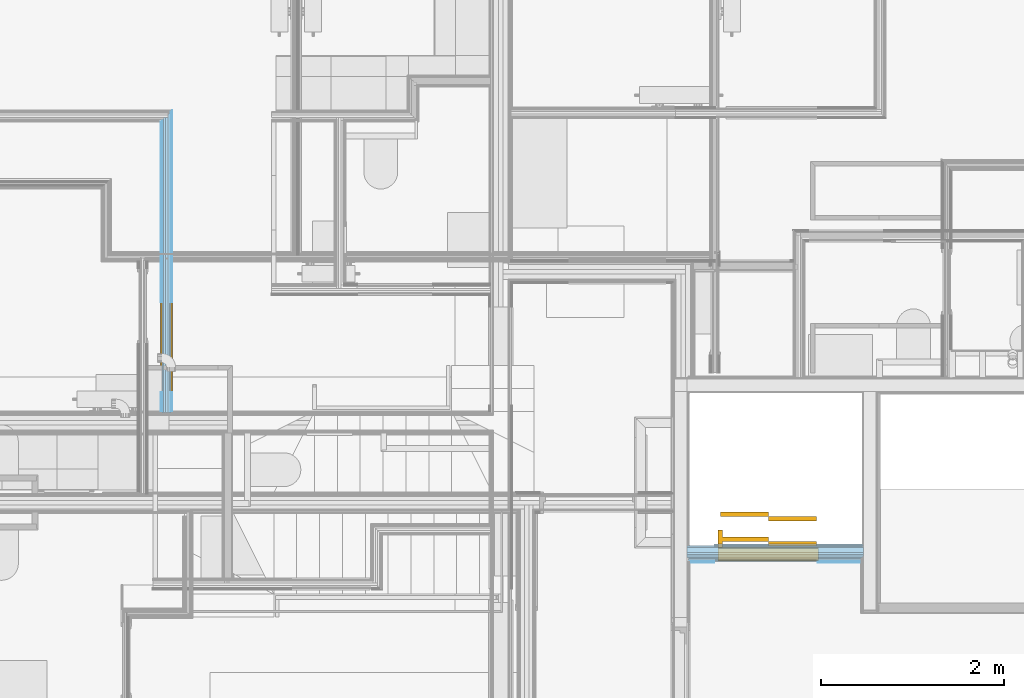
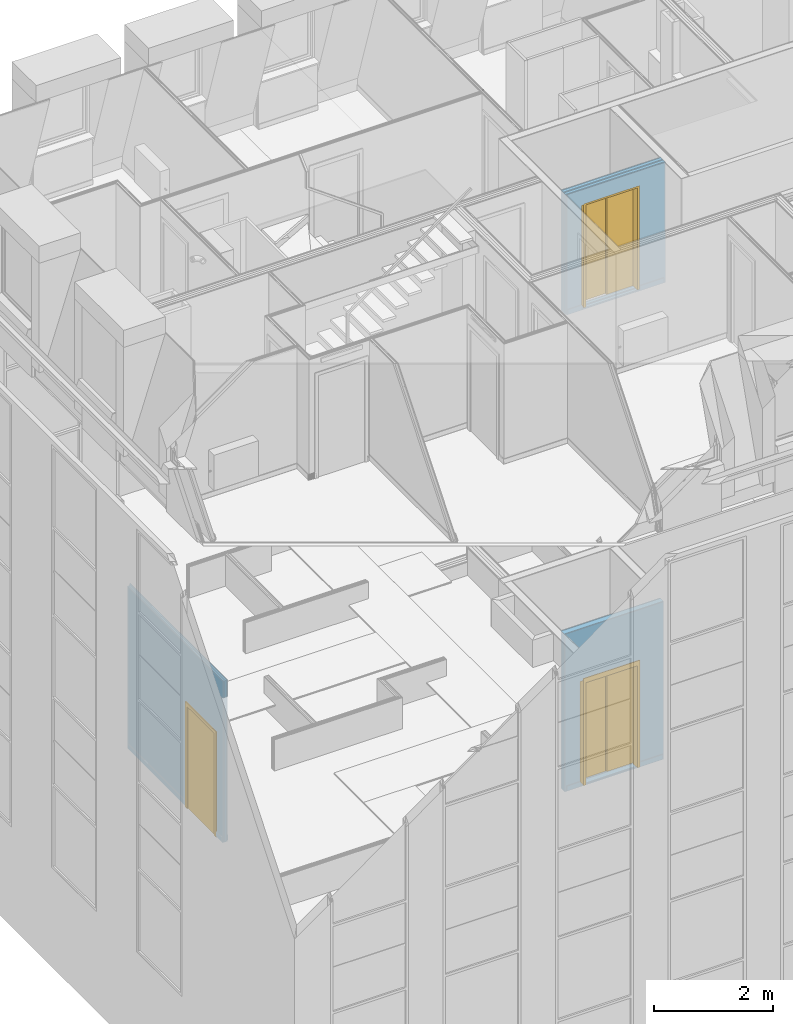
# One storey, part 86 of 169: 3 doors, 3 openings, 3 elements without a shape of their own, plus 19 elements that do not belong to this part.
"""IFC2X3 building model written with IfcOpenShell, lengths in metres."""

from ifc_helpers import new_model, entity, si_unit, converted_unit, derived_unit, money_unit, direction, frame, frame_2d, origin_with_axes, place, context, subcontext, project, spatial, polyline, rectangle, outline, extrude, faceted_brep, material, type_object, element, fill, aggregate, save


model = new_model("IFC2X3")

# Units and contexts
model_context = context("Model", 3, precision=1e-05, world=origin_with_axes(), true_north=direction((0.0, 1.0)))
body_context = subcontext(model_context, "Body", "Model", "MODEL_VIEW", scale=1.0)
ifc_project = project(units=[si_unit("LENGTHUNIT", "METRE"), si_unit("AREAUNIT", "SQUARE_METRE"), si_unit("VOLUMEUNIT", "CUBIC_METRE"), si_unit("ABSORBEDDOSEUNIT", "GRAY"), si_unit("AMOUNTOFSUBSTANCEUNIT", "MOLE"), si_unit("DOSEEQUIVALENTUNIT", "SIEVERT"), si_unit("ELECTRICCAPACITANCEUNIT", "FARAD"), si_unit("ELECTRICCHARGEUNIT", "COULOMB"), si_unit("ELECTRICCONDUCTANCEUNIT", "SIEMENS"), si_unit("ELECTRICCURRENTUNIT", "AMPERE"), si_unit("ELECTRICRESISTANCEUNIT", "OHM"), si_unit("ELECTRICVOLTAGEUNIT", "VOLT"), si_unit("ENERGYUNIT", "JOULE"), si_unit("FORCEUNIT", "NEWTON"), si_unit("FREQUENCYUNIT", "HERTZ"), si_unit("ILLUMINANCEUNIT", "LUX"), si_unit("INDUCTANCEUNIT", "HENRY"), si_unit("LUMINOUSFLUXUNIT", "LUMEN"), si_unit("LUMINOUSINTENSITYUNIT", "CANDELA"), si_unit("MAGNETICFLUXDENSITYUNIT", "TESLA"), si_unit("MAGNETICFLUXUNIT", "WEBER"), si_unit("MASSUNIT", "GRAM"), converted_unit("PLANEANGLEUNIT", "degree", entity("IfcReal", 0.0174532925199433), si_unit("PLANEANGLEUNIT", "RADIAN"), dimensions=[0, 0, 0, 0, 0, 0, 0]), si_unit("POWERUNIT", "WATT"), si_unit("PRESSUREUNIT", "PASCAL"), si_unit("RADIOACTIVITYUNIT", "BECQUEREL"), si_unit("SOLIDANGLEUNIT", "STERADIAN"), si_unit("THERMODYNAMICTEMPERATUREUNIT", "KELVIN"), si_unit("TIMEUNIT", "SECOND"), derived_unit("ACCELERATIONUNIT", [(si_unit("LENGTHUNIT", "METRE"), 1), (si_unit("TIMEUNIT", "SECOND"), -2)]), derived_unit("ANGULARVELOCITYUNIT", [(converted_unit("PLANEANGLEUNIT", "degree", entity("IfcReal", 0.0174532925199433), si_unit("PLANEANGLEUNIT", "RADIAN"), dimensions=[0, 0, 0, 0, 0, 0, 0]), 1), (si_unit("TIMEUNIT", "SECOND"), -1)]), derived_unit("CURVATUREUNIT", [(converted_unit("PLANEANGLEUNIT", "degree", entity("IfcReal", 0.0174532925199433), si_unit("PLANEANGLEUNIT", "RADIAN"), dimensions=[0, 0, 0, 0, 0, 0, 0]), 1), (si_unit("LENGTHUNIT", "METRE"), -1)]), derived_unit("DYNAMICVISCOSITYUNIT", [(si_unit("PRESSUREUNIT", "PASCAL"), 1), (si_unit("TIMEUNIT", "SECOND"), 1)]), derived_unit("HEATFLUXDENSITYUNIT", [(si_unit("POWERUNIT", "WATT"), 1), (si_unit("LENGTHUNIT", "METRE"), -2)]), derived_unit("HEATINGVALUEUNIT", [(si_unit("ENERGYUNIT", "JOULE"), 1), (si_unit("MASSUNIT", "GRAM"), -1)]), derived_unit("INTEGERCOUNTRATEUNIT", [(si_unit("TIMEUNIT", "SECOND"), -1)]), derived_unit("IONCONCENTRATIONUNIT", [(si_unit("MASSUNIT", "GRAM"), 1), (si_unit("VOLUMEUNIT", "CUBIC_METRE"), -1)]), derived_unit("ISOTHERMALMOISTURECAPACITYUNIT", [(si_unit("VOLUMEUNIT", "CUBIC_METRE"), 1), (si_unit("MASSUNIT", "GRAM"), -1)]), derived_unit("KINEMATICVISCOSITYUNIT", [(si_unit("AREAUNIT", "SQUARE_METRE"), 1), (si_unit("TIMEUNIT", "SECOND"), -1)]), derived_unit("LINEARFORCEUNIT", [(si_unit("FORCEUNIT", "NEWTON"), 1), (si_unit("LENGTHUNIT", "METRE"), -1)]), derived_unit("LINEARMOMENTUNIT", [(si_unit("FORCEUNIT", "NEWTON"), 1), (si_unit("LENGTHUNIT", "METRE"), -1)]), derived_unit("LINEARSTIFFNESSUNIT", [(si_unit("FORCEUNIT", "NEWTON"), 1), (si_unit("LENGTHUNIT", "METRE"), -1)]), derived_unit("LINEARVELOCITYUNIT", [(si_unit("LENGTHUNIT", "METRE"), 1), (si_unit("TIMEUNIT", "SECOND"), -1)]), derived_unit("LUMINOUSINTENSITYDISTRIBUTIONUNIT", [(si_unit("LUMINOUSINTENSITYUNIT", "CANDELA"), 1), (si_unit("LUMINOUSFLUXUNIT", "LUMEN"), -1)]), derived_unit("MASSDENSITYUNIT", [(si_unit("MASSUNIT", "GRAM"), 1), (si_unit("VOLUMEUNIT", "CUBIC_METRE"), -1)]), derived_unit("MASSFLOWRATEUNIT", [(si_unit("MASSUNIT", "GRAM"), 1), (si_unit("TIMEUNIT", "SECOND"), -1)]), derived_unit("MASSPERLENGTHUNIT", [(si_unit("MASSUNIT", "GRAM"), 1), (si_unit("LENGTHUNIT", "METRE"), -1)]), derived_unit("MODULUSOFELASTICITYUNIT", [(si_unit("FORCEUNIT", "NEWTON"), 1), (si_unit("AREAUNIT", "SQUARE_METRE"), -1)]), derived_unit("MODULUSOFLINEARSUBGRADEREACTIONUNIT", [(si_unit("FORCEUNIT", "NEWTON"), 1), (si_unit("LENGTHUNIT", "METRE"), -2)]), derived_unit("MODULUSOFROTATIONALSUBGRADEREACTIONUNIT", [(si_unit("FORCEUNIT", "NEWTON"), 1), (si_unit("LENGTHUNIT", "METRE"), 1)]), derived_unit("MODULUSOFSUBGRADEREACTIONUNIT", [(si_unit("FORCEUNIT", "NEWTON"), 1), (si_unit("VOLUMEUNIT", "CUBIC_METRE"), -1)]), derived_unit("MOISTUREDIFFUSIVITYUNIT", [(si_unit("VOLUMEUNIT", "CUBIC_METRE"), 1), (si_unit("TIMEUNIT", "SECOND"), -1)]), derived_unit("MOLECULARWEIGHTUNIT", [(si_unit("MASSUNIT", "GRAM"), 1), (si_unit("AMOUNTOFSUBSTANCEUNIT", "MOLE"), -1)]), derived_unit("PLANARFORCEUNIT", [(si_unit("FORCEUNIT", "NEWTON"), 1), (si_unit("LENGTHUNIT", "METRE"), -2)]), derived_unit("ROTATIONALFREQUENCYUNIT", [(si_unit("TIMEUNIT", "SECOND"), -1)]), derived_unit("ROTATIONALMASSUNIT", [(si_unit("MASSUNIT", "GRAM"), 1), (si_unit("LENGTHUNIT", "METRE"), 2)]), derived_unit("ROTATIONALSTIFFNESSUNIT", [(si_unit("FORCEUNIT", "NEWTON"), 1), (si_unit("LENGTHUNIT", "METRE"), 1), (converted_unit("PLANEANGLEUNIT", "degree", entity("IfcReal", 0.0174532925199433), si_unit("PLANEANGLEUNIT", "RADIAN"), dimensions=[0, 0, 0, 0, 0, 0, 0]), -1)]), derived_unit("SECTIONAREAINTEGRALUNIT", [(si_unit("LENGTHUNIT", "METRE"), 5)]), derived_unit("SECTIONMODULUSUNIT", [(si_unit("LENGTHUNIT", "METRE"), 3)]), derived_unit("SHEARMODULUSUNIT", [(si_unit("FORCEUNIT", "NEWTON"), 1), (si_unit("AREAUNIT", "SQUARE_METRE"), -1)]), derived_unit("SOUNDPOWERUNIT", [(si_unit("ENERGYUNIT", "JOULE"), 1), (si_unit("TIMEUNIT", "SECOND"), -1)]), derived_unit("SPECIFICHEATCAPACITYUNIT", [(si_unit("FORCEUNIT", "NEWTON"), 1), (si_unit("MASSUNIT", "GRAM"), -1), (si_unit("THERMODYNAMICTEMPERATUREUNIT", "KELVIN"), -1)]), derived_unit("TEMPERATUREGRADIENTUNIT", [(si_unit("THERMODYNAMICTEMPERATUREUNIT", "KELVIN"), 1), (si_unit("LENGTHUNIT", "METRE"), -1)]), derived_unit("THERMALADMITTANCEUNIT", [(si_unit("POWERUNIT", "WATT"), 1), (si_unit("AREAUNIT", "SQUARE_METRE"), -1), (si_unit("THERMODYNAMICTEMPERATUREUNIT", "KELVIN"), -1)]), derived_unit("THERMALCONDUCTANCEUNIT", [(si_unit("POWERUNIT", "WATT"), 1), (si_unit("LENGTHUNIT", "METRE"), -1), (si_unit("THERMODYNAMICTEMPERATUREUNIT", "KELVIN"), -1)]), derived_unit("THERMALEXPANSIONCOEFFICIENTUNIT", [(si_unit("THERMODYNAMICTEMPERATUREUNIT", "KELVIN"), -1)]), derived_unit("THERMALRESISTANCEUNIT", [(si_unit("AREAUNIT", "SQUARE_METRE"), 1), (si_unit("POWERUNIT", "WATT"), -1)]), derived_unit("THERMALTRANSMITTANCEUNIT", [(si_unit("POWERUNIT", "WATT"), 1), (si_unit("AREAUNIT", "SQUARE_METRE"), -1), (si_unit("THERMODYNAMICTEMPERATUREUNIT", "KELVIN"), -1)]), derived_unit("TORQUEUNIT", [(si_unit("FORCEUNIT", "NEWTON"), 1), (si_unit("LENGTHUNIT", "METRE"), 1)]), derived_unit("VAPORPERMEABILITYUNIT", [(si_unit("MASSUNIT", "GRAM"), 1), (si_unit("TIMEUNIT", "SECOND"), -1)]), derived_unit("VOLUMETRICFLOWRATEUNIT", [(si_unit("VOLUMEUNIT", "CUBIC_METRE"), 1), (si_unit("TIMEUNIT", "SECOND"), -1)]), derived_unit("WARPINGCONSTANTUNIT", [(si_unit("LENGTHUNIT", "METRE"), 6)]), derived_unit("WARPINGMOMENTUNIT", [(si_unit("FORCEUNIT", "NEWTON"), 1), (si_unit("LENGTHUNIT", "METRE"), 2)]), money_unit("GBP")], contexts=[model_context])

# Site, building, storey, space
site_placement = place(None, origin_with_axes())
site = spatial("IfcSite", under=ifc_project, at=site_placement, Name="Site", CompositionType="ELEMENT")
building_placement = place(site_placement, origin_with_axes())
building = spatial("IfcBuilding", under=site, at=building_placement, Name="Building01", CompositionType="ELEMENT")
storey_placement = place(building_placement, frame((0.0, 0.0, 5.15), z_axis=(0.0, 0.0, 1.0), x_axis=(1.0, 0.0, 0.0)))
storey = spatial("IfcBuildingStorey", under=building, at=storey_placement, Name="1F", CompositionType="ELEMENT", Elevation=5.15)
space_1_placement = place(storey_placement, frame((7.064669, 14.582, 0.017975), z_axis=(0.0, 0.0, 1.0), x_axis=(-1.0, 0.0, 0.0)))
space_1 = spatial("IfcSpace", under=storey, at=space_1_placement, Name="07", CompositionType="ELEMENT", InteriorOrExteriorSpace="NOTDEFINED")

# Door
ifc_material_1 = material(Name="A_BSUK_Doors")
door_style_1 = type_object("IfcDoorStyle", Name="A-Doors-SingleFlush", ConstructionType="USERDEFINED", OperationType="SINGLE_SWING_LEFT", ParameterTakesPrecedence=False, Sizeable=False)
wall_2_placement = place(storey_placement, frame((3.534669, 8.43567, 0.0), z_axis=(0.0, 0.0, 1.0), x_axis=(0.0, 1.0, 0.0)))
opening_2_placement = place(wall_2_placement, frame((0.223034, -0.05, 0.0), z_axis=(0.0, 0.0, 1.0), x_axis=(1.0, 0.0, 0.0)))
door_1_placement = place(opening_2_placement, frame((0.042, 0.11, 0.0), z_axis=(0.0, 0.0, 1.0), x_axis=(1.0, 0.0, 0.0)))
door_1 = element("IfcDoor", 1, at=door_1_placement, inside=space_1, type_object=door_style_1, material=ifc_material_1, Name="1.21", ObjectType="A-Doors-SingleFlush", OverallHeight=2.142, OverallWidth=0.984, context=body_context, shape_type="Brep", body=[
    faceted_brep([(0.0, -0.114, 2.1), (0.9, -0.114, 2.1), (0.9, -0.114, 0.0), (0.969, -0.114, 0.0), (0.969, -0.114, 2.169), (-0.069, -0.114, 2.169), (-0.069, -0.114, 0.0), (0.0, -0.114, 0.0), (0.969, -0.095, 2.169), (0.969, -0.095, 0.0), (-0.069, -0.095, 0.0), (-0.069, -0.095, 2.169), (-0.042, -0.095, 0.0), (-0.042, 0.0, 0.0), (-0.069, 0.0, 0.0), (-0.069, 0.019, 0.0), (0.0, 0.019, 0.0), (0.0, 0.019, 2.1), (0.9, 0.019, 2.1), (-0.069, 0.019, 2.169), (0.969, 0.019, 2.169), (0.969, 0.019, 0.0), (0.9, 0.019, 0.0), (-0.069, 0.0, 2.169), (-0.042, 0.0, 2.142), (-0.042, -0.095, 2.142), (0.942, 0.0, 2.142), (0.942, -0.095, 2.142), (0.942, -0.095, 0.0), (0.942, 0.0, 0.0), (0.969, 0.0, 0.0), (0.969, 0.0, 2.169)], [[[0, 1, 2, 3, 4, 5, 6, 7]], [[8, 4, 3, 9]], [[10, 6, 5, 11]], [[11, 5, 4, 8]], [[7, 6, 10, 12, 13, 14, 15, 16]], [[7, 16, 17, 0]], [[0, 17, 18, 1]], [[17, 16, 15, 19, 20, 21, 22, 18]], [[1, 18, 22, 2]], [[14, 23, 19, 15]], [[24, 13, 12, 25]], [[26, 24, 25, 27]], [[11, 8, 9, 28, 27, 25, 12, 10]], [[27, 28, 29, 26]], [[26, 29, 30, 31, 23, 14, 13, 24]], [[22, 21, 30, 29, 28, 9, 3, 2]], [[30, 21, 20, 31]], [[31, 20, 19, 23]]]),
    faceted_brep([(0.9, -0.09, 0.0), (0.9, -0.04, 0.0), (0.9, -0.04, 2.1), (0.9, -0.09, 2.1), (0.025, -0.09, 2.075), (0.875, -0.09, 2.075), (0.875, -0.09, 0.0), (0.0, -0.09, 2.1), (0.0, -0.09, 0.0), (0.025, -0.09, 0.0), (0.0, -0.04, 0.0), (0.025, -0.04, 0.0), (0.0, -0.04, 2.1), (0.025, -0.04, 2.075), (0.875, -0.04, 0.0), (0.875, -0.04, 2.075)], [[[0, 1, 2, 3]], [[4, 5, 6, 0, 3, 7, 8, 9]], [[9, 8, 10, 11]], [[3, 2, 12, 7]], [[7, 12, 10, 8]], [[13, 11, 10, 12, 2, 1, 14, 15]], [[5, 15, 14, 6]], [[14, 1, 0, 6]], [[9, 11, 13, 4]], [[4, 13, 15, 5]]]),
    faceted_brep([(0.0, -0.04, 2.1), (0.0, 0.0, 2.1), (0.0, 0.0, 0.0), (0.0, -0.04, 0.0), (0.9, -0.04, 0.0), (0.9, 0.0, 0.0), (0.9, 0.0, 2.1), (0.9, -0.04, 2.1)], [[[0, 1, 2, 3]], [[4, 5, 6, 7]], [[3, 2, 5, 4]], [[3, 4, 7, 0]], [[7, 6, 1, 0]], [[1, 6, 5, 2]]]),
])

# Space
space_2_placement = place(storey_placement, frame((9.548928, 7.163933, 0.017932), z_axis=(0.0, 0.0, 1.0), x_axis=(1.0, 0.0, 0.0)))
space_2 = spatial("IfcSpace", under=storey, at=space_2_placement, Name="firef. LIFT", CompositionType="ELEMENT", InteriorOrExteriorSpace="NOTDEFINED")

# Door
door_style_2 = type_object("IfcDoorStyle", Name="A-ElevatorDoor-2Speed", ConstructionType="USERDEFINED", OperationType="USERDEFINED", ParameterTakesPrecedence=False, Sizeable=False)
wall_1_placement = place(storey_placement, frame((11.145, 6.965, 0.0), z_axis=(0.0, 0.0, 1.0), x_axis=(-1.0, 0.0, 0.0)))
opening_1_placement = place(wall_1_placement, frame((0.5, -0.03, 0.03), z_axis=(0.0, 0.0, 1.0), x_axis=(1.0, 0.0, 0.0)))
door_2_placement = place(opening_1_placement, frame((1.04, 0.17, 0.0), z_axis=(0.0, 0.0, 1.0), x_axis=(-1.0, 0.0, 0.0)))
door_2 = element("IfcDoor", 2, at=door_2_placement, inside=space_2, type_object=door_style_2, material=ifc_material_1, Name="A-ElevatorDoor-2Speed", ObjectType="A-ElevatorDoor-2Speed", OverallHeight=2.14, OverallWidth=1.13330201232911, context=body_context, shape_type="Brep", body=[
    faceted_brep([(1.05, 0.0, 0.0), (1.05, 0.0, 2.1), (1.05, -0.012, 2.1), (1.05, -0.012, 0.0), (1.0, -0.012, 0.0), (1.0, -0.012, 2.1), (1.0, 0.137, 2.1), (1.0, 0.137, 0.0), (1.05, 0.137, 2.1), (1.05, 0.137, 0.0), (1.05, 0.125, 2.1), (1.05, 0.125, 0.0), (1.04, 0.125, 2.1), (1.04, 0.125, 0.0), (1.04, 0.0, 2.1), (1.04, 0.0, 0.0)], [[[0, 1, 2, 3]], [[4, 5, 6, 7]], [[7, 6, 8, 9]], [[9, 8, 10, 11]], [[11, 10, 12, 13]], [[13, 12, 14, 15]], [[15, 14, 1, 0]], [[3, 4, 7, 9, 11, 13, 15, 0]], [[3, 2, 5, 4]], [[1, 14, 12, 10, 8, 6, 5, 2]]]),
    faceted_brep([(1.05, 0.0, 2.2), (-0.05, 0.0, 2.2), (-0.05, -0.012, 2.2), (1.05, -0.012, 2.2), (1.05, -0.012, 2.1), (-0.05, -0.012, 2.1), (-0.05, 0.137, 2.1), (1.05, 0.137, 2.1), (-0.05, 0.137, 2.2), (1.05, 0.137, 2.2), (-0.05, 0.125, 2.2), (1.05, 0.125, 2.2), (-0.05, 0.125, 2.14), (1.05, 0.125, 2.14), (-0.05, 0.0, 2.14), (1.05, 0.0, 2.14)], [[[0, 1, 2, 3]], [[4, 5, 6, 7]], [[7, 6, 8, 9]], [[9, 8, 10, 11]], [[11, 10, 12, 13]], [[13, 12, 14, 15]], [[15, 14, 1, 0]], [[3, 4, 7, 9, 11, 13, 15, 0]], [[3, 2, 5, 4]], [[1, 14, 12, 10, 8, 6, 5, 2]]]),
    faceted_brep([(-0.05, 0.0, 2.1), (-0.05, 0.0, 0.0), (-0.05, -0.012, 0.0), (-0.05, -0.012, 2.1), (0.0, -0.012, 2.1), (0.0, -0.012, 0.0), (0.0, 0.137, 0.0), (0.0, 0.137, 2.1), (-0.05, 0.137, 0.0), (-0.05, 0.137, 2.1), (-0.05, 0.125, 0.0), (-0.05, 0.125, 2.1), (-0.04, 0.125, 0.0), (-0.04, 0.125, 2.1), (-0.04, 0.0, 0.0), (-0.04, 0.0, 2.1)], [[[0, 1, 2, 3]], [[4, 5, 6, 7]], [[7, 6, 8, 9]], [[9, 8, 10, 11]], [[11, 10, 12, 13]], [[13, 12, 14, 15]], [[15, 14, 1, 0]], [[3, 4, 7, 9, 11, 13, 15, 0]], [[3, 2, 5, 4]], [[1, 14, 12, 10, 8, 6, 5, 2]]]),
    faceted_brep([(-0.025, 0.25, 2.125), (-0.025, 0.2, 2.125), (0.5, 0.2, 2.125), (0.5, 0.25, 2.125), (0.5, 0.25, -0.025), (0.5, 0.2, -0.025), (-0.025, 0.2, -0.025), (-0.025, 0.25, -0.025)], [[[0, 1, 2, 3]], [[4, 5, 6, 7]], [[7, 6, 1, 0]], [[3, 4, 7, 0]], [[3, 2, 5, 4]], [[1, 6, 5, 2]]]),
    faceted_brep([(-0.025, 0.5254, 2.125), (-0.025, 0.4754, 2.125), (0.5, 0.4754, 2.125), (0.5, 0.5254, 2.125), (0.5, 0.5254, -0.0594), (0.5, 0.4754, -0.0594), (-0.025, 0.4754, -0.0594), (-0.025, 0.5254, -0.0594)], [[[0, 1, 2, 3]], [[4, 5, 6, 7]], [[7, 6, 1, 0]], [[3, 4, 7, 0]], [[3, 2, 5, 4]], [[1, 6, 5, 2]]]),
    faceted_brep([(1.025, 0.4254, 2.125), (1.025, 0.4754, 2.125), (0.5, 0.4754, 2.125), (0.5, 0.4254, 2.125), (0.5, 0.4254, -0.025), (0.5, 0.4754, -0.025), (1.025, 0.4754, -0.025), (1.025, 0.4254, -0.025)], [[[0, 1, 2, 3]], [[4, 5, 6, 7]], [[7, 6, 1, 0]], [[3, 4, 7, 0]], [[3, 2, 5, 4]], [[1, 6, 5, 2]]]),
    faceted_brep([(1.025, 0.15, 2.125), (1.025, 0.2, 2.125), (0.5, 0.2, 2.125), (0.5, 0.15, 2.125), (0.5, 0.15, -0.025), (0.5, 0.2, -0.025), (1.025, 0.2, -0.025), (1.025, 0.15, -0.025)], [[[0, 1, 2, 3]], [[4, 5, 6, 7]], [[7, 6, 1, 0]], [[3, 4, 7, 0]], [[3, 2, 5, 4]], [[1, 6, 5, 2]]]),
    faceted_brep([(0.0, 0.137, 2.125), (0.0, 0.137, 0.0), (0.0, 0.3246, 0.0), (0.0, 0.3246, 2.125), (-0.05, 0.3246, 2.125), (-0.05, 0.3246, 0.0), (-0.05, 0.137, 0.0), (-0.05, 0.137, 2.125)], [[[0, 1, 2, 3]], [[4, 5, 6, 7]], [[7, 6, 1, 0]], [[3, 4, 7, 0]], [[3, 2, 5, 4]], [[1, 6, 5, 2]]]),
])

# Space
space_3_placement = place(storey_placement, frame((9.548928, 7.163933, 9.86), z_axis=(0.0, 0.0, 1.0), x_axis=(1.0, 0.0, 0.0)))
space_3 = spatial("IfcSpace", under=storey, at=space_3_placement, Name="firef. LIFT", CompositionType="ELEMENT", InteriorOrExteriorSpace="NOTDEFINED")

# Door
wall_3_placement = place(storey_placement, frame((11.145, 6.907, 9.83), z_axis=(0.0, 0.0, 1.0), x_axis=(-1.0, 0.0, 0.0)))
opening_3_placement = place(wall_3_placement, frame((0.5, -0.073, 0.015), z_axis=(0.0, 0.0, 1.0), x_axis=(1.0, 0.0, 0.0)))
door_3_placement = place(opening_3_placement, frame((1.04, 0.155, 0.015), z_axis=(0.0, 0.0, 1.0), x_axis=(-1.0, 0.0, 0.0)))
door_3 = element("IfcDoor", 3, at=door_3_placement, inside=space_3, type_object=door_style_2, material=ifc_material_1, Name="A-ElevatorDoor-2Speed", ObjectType="A-ElevatorDoor-2Speed", OverallHeight=2.155, OverallWidth=1.13330201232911, context=body_context, shape_type="Brep", body=[
    faceted_brep([(1.05, 0.0, 0.0), (1.05, 0.0, 2.1), (1.05, -0.012, 2.1), (1.05, -0.012, 0.0), (1.0, -0.012, 0.0), (1.0, -0.012, 2.1), (1.0, 0.137, 2.1), (1.0, 0.137, 0.0), (1.05, 0.137, 2.1), (1.05, 0.137, 0.0), (1.05, 0.125, 2.1), (1.05, 0.125, 0.0), (1.04, 0.125, 2.1), (1.04, 0.125, 0.0), (1.04, 0.0, 2.1), (1.04, 0.0, 0.0)], [[[0, 1, 2, 3]], [[4, 5, 6, 7]], [[7, 6, 8, 9]], [[9, 8, 10, 11]], [[11, 10, 12, 13]], [[13, 12, 14, 15]], [[15, 14, 1, 0]], [[3, 4, 7, 9, 11, 13, 15, 0]], [[3, 2, 5, 4]], [[1, 14, 12, 10, 8, 6, 5, 2]]]),
    faceted_brep([(1.05, 0.0, 2.2), (-0.05, 0.0, 2.2), (-0.05, -0.012, 2.2), (1.05, -0.012, 2.2), (1.05, -0.012, 2.1), (-0.05, -0.012, 2.1), (-0.05, 0.137, 2.1), (1.05, 0.137, 2.1), (-0.05, 0.137, 2.2), (1.05, 0.137, 2.2), (-0.05, 0.125, 2.2), (1.05, 0.125, 2.2), (-0.05, 0.125, 2.14), (1.05, 0.125, 2.14), (-0.05, 0.0, 2.14), (1.05, 0.0, 2.14)], [[[0, 1, 2, 3]], [[4, 5, 6, 7]], [[7, 6, 8, 9]], [[9, 8, 10, 11]], [[11, 10, 12, 13]], [[13, 12, 14, 15]], [[15, 14, 1, 0]], [[3, 4, 7, 9, 11, 13, 15, 0]], [[3, 2, 5, 4]], [[1, 14, 12, 10, 8, 6, 5, 2]]]),
    faceted_brep([(-0.05, 0.0, 2.1), (-0.05, 0.0, 0.0), (-0.05, -0.012, 0.0), (-0.05, -0.012, 2.1), (0.0, -0.012, 2.1), (0.0, -0.012, 0.0), (0.0, 0.137, 0.0), (0.0, 0.137, 2.1), (-0.05, 0.137, 0.0), (-0.05, 0.137, 2.1), (-0.05, 0.125, 0.0), (-0.05, 0.125, 2.1), (-0.04, 0.125, 0.0), (-0.04, 0.125, 2.1), (-0.04, 0.0, 0.0), (-0.04, 0.0, 2.1)], [[[0, 1, 2, 3]], [[4, 5, 6, 7]], [[7, 6, 8, 9]], [[9, 8, 10, 11]], [[11, 10, 12, 13]], [[13, 12, 14, 15]], [[15, 14, 1, 0]], [[3, 4, 7, 9, 11, 13, 15, 0]], [[3, 2, 5, 4]], [[1, 14, 12, 10, 8, 6, 5, 2]]]),
    faceted_brep([(-0.025, 0.25, 2.125), (-0.025, 0.2, 2.125), (0.5, 0.2, 2.125), (0.5, 0.25, 2.125), (0.5, 0.25, -0.025), (0.5, 0.2, -0.025), (-0.025, 0.2, -0.025), (-0.025, 0.25, -0.025)], [[[0, 1, 2, 3]], [[4, 5, 6, 7]], [[7, 6, 1, 0]], [[3, 4, 7, 0]], [[3, 2, 5, 4]], [[1, 6, 5, 2]]]),
    faceted_brep([(-0.025, 0.5254, 2.125), (-0.025, 0.4754, 2.125), (0.5, 0.4754, 2.125), (0.5, 0.5254, 2.125), (0.5, 0.5254, -0.0594), (0.5, 0.4754, -0.0594), (-0.025, 0.4754, -0.0594), (-0.025, 0.5254, -0.0594)], [[[0, 1, 2, 3]], [[4, 5, 6, 7]], [[7, 6, 1, 0]], [[3, 4, 7, 0]], [[3, 2, 5, 4]], [[1, 6, 5, 2]]]),
    faceted_brep([(1.025, 0.4254, 2.125), (1.025, 0.4754, 2.125), (0.5, 0.4754, 2.125), (0.5, 0.4254, 2.125), (0.5, 0.4254, -0.025), (0.5, 0.4754, -0.025), (1.025, 0.4754, -0.025), (1.025, 0.4254, -0.025)], [[[0, 1, 2, 3]], [[4, 5, 6, 7]], [[7, 6, 1, 0]], [[3, 4, 7, 0]], [[3, 2, 5, 4]], [[1, 6, 5, 2]]]),
    faceted_brep([(1.025, 0.15, 2.125), (1.025, 0.2, 2.125), (0.5, 0.2, 2.125), (0.5, 0.15, 2.125), (0.5, 0.15, -0.025), (0.5, 0.2, -0.025), (1.025, 0.2, -0.025), (1.025, 0.15, -0.025)], [[[0, 1, 2, 3]], [[4, 5, 6, 7]], [[7, 6, 1, 0]], [[3, 4, 7, 0]], [[3, 2, 5, 4]], [[1, 6, 5, 2]]]),
    faceted_brep([(0.0, 0.137, 2.125), (0.0, 0.137, 0.0), (0.0, 0.3246, 0.0), (0.0, 0.3246, 2.125), (-0.05, 0.3246, 2.125), (-0.05, 0.3246, 0.0), (-0.05, 0.137, 0.0), (-0.05, 0.137, 2.125)], [[[0, 1, 2, 3]], [[4, 5, 6, 7]], [[7, 6, 1, 0]], [[3, 4, 7, 0]], [[3, 2, 5, 4]], [[1, 6, 5, 2]]]),
])

# Wall, opening
wall_type_1 = type_object("IfcWallType", Name="SHE_A-Walls_Type04a_BlockworkWall_130mm", PredefinedType="NOTDEFINED")
wall_1 = element("IfcWall", 4, at=wall_1_placement, inside=storey, type_object=wall_type_1, Name="4A", ObjectType="SHE_A-Walls_Type04a_BlockworkWall_130mm")
opening_1 = element("IfcOpeningElement", 5, at=opening_1_placement, cuts=wall_1, Name="Opening", ObjectType="Opening", context=body_context, shape_type="SweptSolid", body=[
    extrude(rectangle(XDim=1.133302, YDim=2.14, at=frame_2d((-0.566651, 1.07), x_axis=(-1.0, 0.0))), frame((0.0, 0.0, 0.0), z_axis=(0.0, 1.0, 0.0), x_axis=(-1.0, 0.0, 0.0)), (0.0, 0.0, 1.0), 0.16),
])

fill(opening_1, door_2)

# Building element part
ifc_material_2 = material(Name="A_BSUK_Walls_Timber")
placement_1 = place(wall_1_placement, origin_with_axes())
building_element_part_1 = element("IfcBuildingElementPart", 6, at=placement_1, material=ifc_material_2, Name="1", context=body_context, shape_type="SweptSolid", body=[
    extrude(outline(polyline([(0.0, -0.015), (0.015, -0.03), (1.633302, -0.03), (1.633302, -0.015), (0.0, -0.015)])), frame((0.0, 0.0, 0.015), z_axis=(0.0, 0.0, 1.0), x_axis=(1.0, 0.0, 0.0)), (0.0, 0.0, 1.0), 0.1),
])

ifc_material_3 = material(Name="A_BSUK_WallInternal_Finishes_Plasterboard")
building_element_part_2 = element("IfcBuildingElementPart", 7, at=placement_1, material=ifc_material_3, Name="2", context=body_context, shape_type="SweptSolid", body=[
    extrude(outline(polyline([(1.93, 0.0), (0.0, 0.0), (0.015, -0.015), (1.93, -0.015), (1.93, 0.0)])), origin_with_axes(), (0.0, 0.0, 1.0), 3.24),
])

ifc_material_4 = material(Name="A_BSUK_WallsInternal_Block")
building_element_part_3 = element("IfcBuildingElementPart", 8, at=placement_1, material=ifc_material_4, Name="3", context=body_context, shape_type="SweptSolid", body=[
    extrude(rectangle(XDim=1.93, YDim=0.1, at=frame_2d((0.965, 0.05), x_axis=(-1.0, 0.0))), origin_with_axes(), (0.0, 0.0, 1.0), 3.24),
])

ifc_material_5 = material(Name="A_BSUK_WallInternal_Finishes_Plaster")
building_element_part_4 = element("IfcBuildingElementPart", 9, at=placement_1, material=ifc_material_5, Name="4", context=body_context, shape_type="SweptSolid", body=[
    extrude(outline(polyline([(1.93, 0.115), (0.015, 0.115), (0.0, 0.1), (1.93, 0.1), (1.93, 0.115)])), origin_with_axes(), (0.0, 0.0, 1.0), 3.24),
])

building_element_part_5 = element("IfcBuildingElementPart", 10, at=placement_1, material=ifc_material_2, Name="5", context=body_context, shape_type="SweptSolid", body=[
    extrude(outline(polyline([(1.9, 0.13), (0.03, 0.13), (0.015, 0.115), (1.9, 0.115), (1.9, 0.13)])), frame((0.0, 0.0, 0.015), z_axis=(0.0, 0.0, 1.0), x_axis=(1.0, 0.0, 0.0)), (0.0, 0.0, 1.0), 0.1),
])

aggregate(wall_1, [building_element_part_1, building_element_part_2, building_element_part_3, building_element_part_4, building_element_part_5])

# Wall, opening
wall_type_2 = type_object("IfcWallType", Name="SHE_A-Walls_Type05a_Partition_95mm_tall", PredefinedType="NOTDEFINED")
wall_2 = element("IfcWall", 11, at=wall_2_placement, inside=storey, type_object=wall_type_2, Name="5A", ObjectType="SHE_A-Walls_Type05a_Partition_95mm_tall")
opening_2 = element("IfcOpeningElement", 12, at=opening_2_placement, cuts=wall_2, Name="Opening", ObjectType="Opening", context=body_context, shape_type="SweptSolid", body=[
    extrude(rectangle(XDim=0.984, YDim=2.142, at=frame_2d((-0.492, 1.071), x_axis=(1.0, 0.0))), frame((0.0, 0.0, 0.0), z_axis=(0.0, 1.0, 0.0), x_axis=(-1.0, 0.0, 0.0)), (0.0, 0.0, 1.0), 0.125),
])

fill(opening_2, door_1)

# Building element part
placement_2 = place(wall_2_placement, origin_with_axes())
building_element_part_6 = element("IfcBuildingElementPart", 13, at=placement_2, material=ifc_material_2, Name="1", context=body_context, shape_type="SweptSolid", body=[
    extrude(outline(polyline([(3.29, -0.035), (0.015, -0.035), (0.015, -0.05), (3.305, -0.05), (3.29, -0.035)])), frame((0.0, 0.0, 0.015), z_axis=(0.0, 0.0, 1.0), x_axis=(1.0, 0.0, 0.0)), (0.0, 0.0, 1.0), 0.1),
])

building_element_part_7 = element("IfcBuildingElementPart", 14, at=placement_2, material=ifc_material_3, Name="2", context=body_context, shape_type="SweptSolid", body=[
    extrude(outline(polyline([(3.278, -0.023), (0.0, -0.023), (0.0, -0.035), (3.29, -0.035), (3.278, -0.023)])), origin_with_axes(), (0.0, 0.0, 1.0), 3.32),
])

ifc_material_6 = material(Name="Air Cavity")
building_element_part_8 = element("IfcBuildingElementPart", 15, at=placement_2, material=ifc_material_6, Name="3", context=body_context, shape_type="SweptSolid", body=[
    extrude(outline(polyline([(3.255, 0.0), (0.0, 0.0), (0.0, -0.023), (3.278, -0.023), (3.255, 0.0)])), origin_with_axes(), (0.0, 0.0, 1.0), 3.32),
])

ifc_material_7 = material(Name="A_BSUK_Insulation")
building_element_part_9 = element("IfcBuildingElementPart", 16, at=placement_2, material=ifc_material_7, Name="4", context=body_context, shape_type="SweptSolid", body=[
    extrude(rectangle(XDim=3.23, YDim=0.025, at=frame_2d((1.615, 0.0125), x_axis=(-1.0, 0.0))), origin_with_axes(), (0.0, 0.0, 1.0), 3.32),
])

building_element_part_10 = element("IfcBuildingElementPart", 17, at=placement_2, material=ifc_material_6, Name="5", context=body_context, shape_type="SweptSolid", body=[
    extrude(rectangle(XDim=3.23, YDim=0.023, at=frame_2d((1.615, 0.0365), x_axis=(-1.0, 0.0))), origin_with_axes(), (0.0, 0.0, 1.0), 3.32),
])

building_element_part_11 = element("IfcBuildingElementPart", 18, at=placement_2, material=ifc_material_3, Name="6", context=body_context, shape_type="SweptSolid", body=[
    extrude(outline(polyline([(3.195, 0.06), (0.0, 0.06), (0.0, 0.048), (3.207, 0.048), (3.195, 0.06)])), origin_with_axes(), (0.0, 0.0, 1.0), 3.32),
])

building_element_part_12 = element("IfcBuildingElementPart", 19, at=placement_2, material=ifc_material_2, Name="7", context=body_context, shape_type="SweptSolid", body=[
    extrude(outline(polyline([(3.18, 0.075), (0.015, 0.075), (0.015, 0.06), (3.195, 0.06), (3.18, 0.075)])), frame((0.0, 0.0, 0.015), z_axis=(0.0, 0.0, 1.0), x_axis=(1.0, 0.0, 0.0)), (0.0, 0.0, 1.0), 0.1),
])

aggregate(wall_2, [building_element_part_6, building_element_part_7, building_element_part_8, building_element_part_9, building_element_part_10, building_element_part_11, building_element_part_12])

# Wall, opening
wall_type_3 = type_object("IfcWallType", Name="SHE_A-Walls_Type02b_LiftShaftWall_173mm", PredefinedType="NOTDEFINED")
wall_3 = element("IfcWall", 20, at=wall_3_placement, inside=storey, type_object=wall_type_3, Name="2B", ObjectType="SHE_A-Walls_Type02b_LiftShaftWall_173mm")
opening_3 = element("IfcOpeningElement", 21, at=opening_3_placement, cuts=wall_3, Name="Opening", ObjectType="Opening", context=body_context, shape_type="SweptSolid", body=[
    extrude(rectangle(XDim=1.133302, YDim=2.14, at=frame_2d((-0.566651, 1.07), x_axis=(-1.0, 0.0))), frame((0.0, 0.0, 0.0), z_axis=(0.0, 1.0, 0.0), x_axis=(-1.0, 0.0, 0.0)), (0.0, 0.0, 1.0), 0.188),
    extrude(outline(polyline([(0.0, 2.155), (-1.08, 2.155), (-1.08, 2.14), (-1.133302, 2.14), (-1.133302, 0.0), (0.0, 0.0), (0.0, 2.155)])), frame((0.0, 0.0, 0.0), z_axis=(0.0, 1.0, 0.0), x_axis=(-1.0, 0.0, 0.0)), (0.0, 0.0, 1.0), 0.173),
])

fill(opening_3, door_3)

# Building element part
placement_3 = place(wall_3_placement, origin_with_axes())
building_element_part_13 = element("IfcBuildingElementPart", 22, at=placement_3, material=ifc_material_3, Name="1", context=body_context, shape_type="SweptSolid", body=[
    extrude(rectangle(XDim=1.93, YDim=0.019, at=frame_2d((0.965, -0.0635), x_axis=(-1.0, 0.0))), origin_with_axes(), (0.0, 0.0, 1.0), 2.473),
])

building_element_part_14 = element("IfcBuildingElementPart", 23, at=placement_3, material=ifc_material_6, Name="2", context=body_context, shape_type="SweptSolid", body=[
    extrude(rectangle(XDim=1.93, YDim=0.054, at=frame_2d((0.965, -0.027), x_axis=(-1.0, 0.0))), origin_with_axes(), (0.0, 0.0, 1.0), 2.473),
])

building_element_part_15 = element("IfcBuildingElementPart", 24, at=placement_3, material=ifc_material_7, Name="3", context=body_context, shape_type="SweptSolid", body=[
    extrude(rectangle(XDim=1.93, YDim=0.025, at=frame_2d((0.965, 0.0125), x_axis=(-1.0, 0.0))), origin_with_axes(), (0.0, 0.0, 1.0), 2.473),
])

building_element_part_16 = element("IfcBuildingElementPart", 25, at=placement_3, material=ifc_material_6, Name="4", context=body_context, shape_type="SweptSolid", body=[
    extrude(rectangle(XDim=1.93, YDim=0.051, at=frame_2d((0.965, 0.0505), x_axis=(-1.0, 0.0))), origin_with_axes(), (0.0, 0.0, 1.0), 2.473),
])

building_element_part_17 = element("IfcBuildingElementPart", 26, at=placement_3, material=ifc_material_3, Name="5", context=body_context, shape_type="SweptSolid", body=[
    extrude(rectangle(XDim=1.915, YDim=0.012, at=frame_2d((0.9575, 0.082), x_axis=(-1.0, 0.0))), origin_with_axes(), (0.0, 0.0, 1.0), 2.473),
])

building_element_part_18 = element("IfcBuildingElementPart", 27, at=placement_3, material=ifc_material_3, Name="6", context=body_context, shape_type="SweptSolid", body=[
    extrude(rectangle(XDim=1.915, YDim=0.012, at=frame_2d((0.9575, 0.094), x_axis=(-1.0, 0.0))), origin_with_axes(), (0.0, 0.0, 1.0), 2.473),
])

building_element_part_19 = element("IfcBuildingElementPart", 28, at=placement_3, material=ifc_material_2, Name="7", context=body_context, shape_type="SweptSolid", body=[
    extrude(rectangle(XDim=1.87, YDim=0.015, at=frame_2d((0.965, 0.1075), x_axis=(-1.0, 0.0))), frame((0.0, 0.0, 0.015), z_axis=(0.0, 0.0, 1.0), x_axis=(1.0, 0.0, 0.0)), (0.0, 0.0, 1.0), 0.1),
])

aggregate(wall_3, [building_element_part_13, building_element_part_14, building_element_part_15, building_element_part_16, building_element_part_17, building_element_part_18, building_element_part_19])

save(model, "model.ifc")
